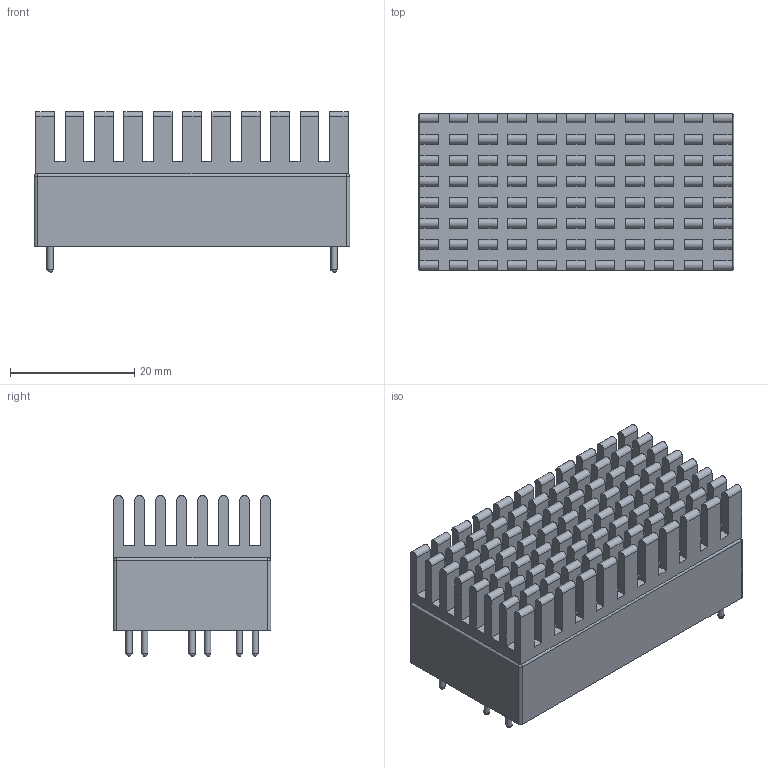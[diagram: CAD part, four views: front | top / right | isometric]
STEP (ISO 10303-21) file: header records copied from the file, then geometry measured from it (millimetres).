
FILE_DESCRIPTION(/* description */ (''),/* implementation_level */ '2;1');
FILE_NAME(/* name */ 'FD60-XXSXXB3R2-H.stp',/* time_stamp */ '2025-07-15T12:03:56+08:00',/* author */ (''),/* organization */ (''),/* preprocessor_version */ 'ST-DEVELOPER v16',/* originating_system */ 'SIEMENS PLM Software NX 10.0',/* authorisation */ '123');
FILE_SCHEMA (('AUTOMOTIVE_DESIGN { 1 0 10303 214 3 1 1 1 }'));
Length unit declared in the file: millimetre
Products named in the file (1): admi5B74520Af1xw
Bounding box: 50.8 x 25.4 x 25.9 mm (x, y, z)
Volume: 20893.6 mm3; surface area: 13575 mm2
Topology: 8 solids, 8 shells, 486 faces, 1210 edges, 790 vertices
Faces by surface type: plane 368, cylinder 108, sphere 10
Full cylindrical faces by diameter (mm): 1 x12
Entity records: 14094 total; most frequent: CARTESIAN_POINT 2447, DIRECTION 2354, ORIENTED_EDGE 2340, EDGE_CURVE 1170, LINE 948, VECTOR 948, VERTEX_POINT 772, AXIS2_PLACEMENT_3D 703
